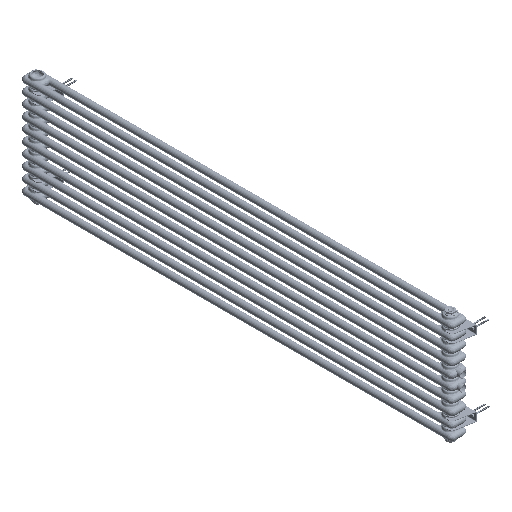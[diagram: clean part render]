
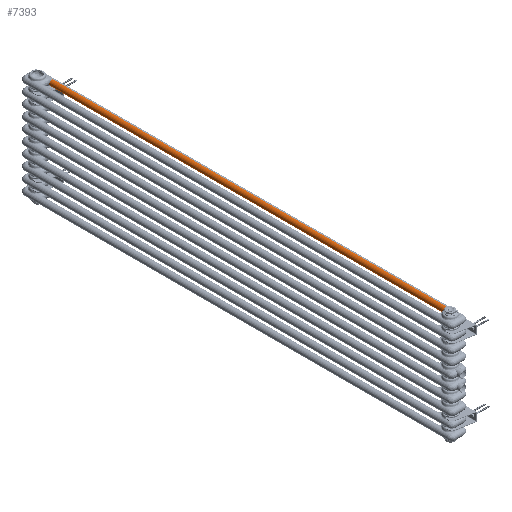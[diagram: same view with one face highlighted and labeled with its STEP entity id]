
A CAD part, isometric view. The second image highlights one B-rep face of the part: STEP entity #7393.
In plain terms, the highlighted cylindrical face has radius 12.5 mm (diameter 25 mm), a partial arc.
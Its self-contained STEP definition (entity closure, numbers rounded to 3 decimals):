
#7393=ADVANCED_FACE('',(#11911),#10345,.T.);
#10345=CYLINDRICAL_SURFACE('',#59914,12.5);
#11911=FACE_OUTER_BOUND('',#15618,.T.);
#15618=EDGE_LOOP('',(#25871,#25872,#25873,#25874,#25875,#25876));
#19432=CIRCLE('',#59895,12.5);
#19434=CIRCLE('',#59898,12.5);
#19442=CIRCLE('',#59912,12.5);
#19443=CIRCLE('',#59913,12.5);
#25871=ORIENTED_EDGE('',*,*,#46898,.F.);
#25872=ORIENTED_EDGE('',*,*,#46899,.F.);
#25873=ORIENTED_EDGE('',*,*,#46900,.F.);
#25874=ORIENTED_EDGE('',*,*,#46890,.F.);
#25875=ORIENTED_EDGE('',*,*,#46877,.T.);
#25876=ORIENTED_EDGE('',*,*,#46875,.T.);
#40698=VERTEX_POINT('',#113249);
#40699=VERTEX_POINT('',#113251);
#40700=VERTEX_POINT('',#113255);
#40704=VERTEX_POINT('',#113573);
#40711=VERTEX_POINT('',#113644);
#40712=VERTEX_POINT('',#113648);
#46875=EDGE_CURVE('',#40699,#40698,#19432,.T.);
#46877=EDGE_CURVE('',#40700,#40699,#19434,.T.);
#46890=EDGE_CURVE('',#40700,#40704,#54166,.T.);
#46898=EDGE_CURVE('',#40711,#40698,#54171,.T.);
#46899=EDGE_CURVE('',#40712,#40711,#19442,.T.);
#46900=EDGE_CURVE('',#40704,#40712,#19443,.T.);
#54166=LINE('',#113572,#56480);
#54171=LINE('',#113645,#56485);
#56480=VECTOR('',#67695,1.);
#56485=VECTOR('',#67702,1.);
#59895=AXIS2_PLACEMENT_3D('',#113250,#67661,#67662);
#59898=AXIS2_PLACEMENT_3D('',#113254,#67667,#67668);
#59912=AXIS2_PLACEMENT_3D('',#113647,#67705,#67706);
#59913=AXIS2_PLACEMENT_3D('',#113649,#67707,#67708);
#59914=AXIS2_PLACEMENT_3D('',#113650,#67709,#67710);
#67661=DIRECTION('',(0.,1.,0.));
#67662=DIRECTION('',(-1.,0.,0.));
#67667=DIRECTION('',(0.,1.,0.));
#67668=DIRECTION('',(0.,0.,-1.));
#67695=DIRECTION('',(0.,1.,0.));
#67702=DIRECTION('',(0.,-1.,0.));
#67705=DIRECTION('',(0.,1.,0.));
#67706=DIRECTION('',(-1.,0.,0.));
#67707=DIRECTION('',(0.,1.,0.));
#67708=DIRECTION('',(0.,0.,-1.));
#67709=DIRECTION('',(0.,1.,0.));
#67710=DIRECTION('',(0.,0.,1.));
#113249=CARTESIAN_POINT('',(57.5,79.5,-650.));
#113250=CARTESIAN_POINT('',(57.5,79.5,-662.5));
#113251=CARTESIAN_POINT('',(45.,79.5,-662.5));
#113254=CARTESIAN_POINT('',(57.5,79.5,-662.5));
#113255=CARTESIAN_POINT('',(57.5,79.5,-675.));
#113572=CARTESIAN_POINT('',(57.5,79.5,-675.));
#113573=CARTESIAN_POINT('',(57.5,1723.5,-675.));
#113644=CARTESIAN_POINT('',(57.5,1723.5,-650.));
#113645=CARTESIAN_POINT('',(57.5,523.5,-650.));
#113647=CARTESIAN_POINT('',(57.5,1723.5,-662.5));
#113648=CARTESIAN_POINT('',(45.,1723.5,-662.5));
#113649=CARTESIAN_POINT('',(57.5,1723.5,-662.5));
#113650=CARTESIAN_POINT('',(57.5,79.5,-662.5));
